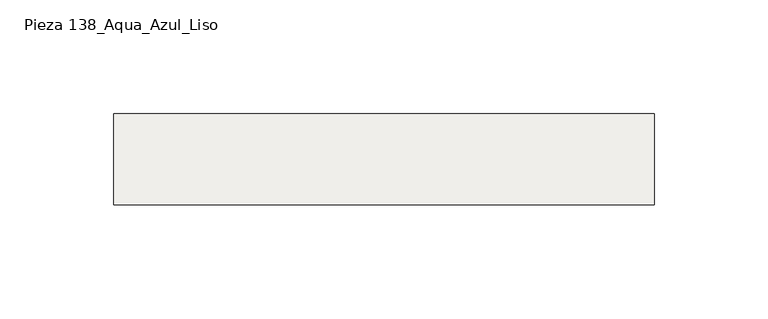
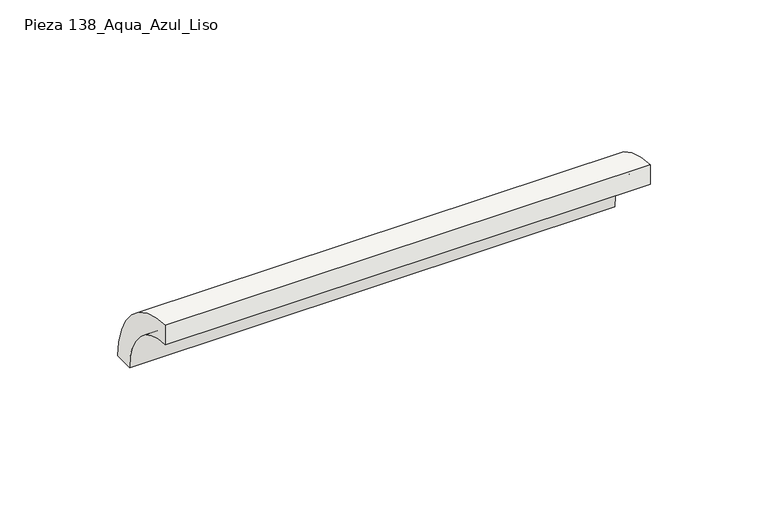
"""IFC4 building model written with IfcOpenShell, lengths in millimetres: slab geometry, ROSA GRES_138 : Pieza 138_Aqua_Azul_Liso."""

from ifc_helpers import new_model, si_unit, point, frame, frame_2d, origin, origin_2d, place, context, project, spatial, polyline, circle_curve, trimmed, segment, composite_curve, outline, extrude, source, transform, mapped, element, save


def pieza_138_aqua_azul_liso_f21874c8(model_context):
    return source(origin(), model_context, "Body", "SweptSolid", [
        extrude(outline(composite_curve([segment(trimmed(circle_curve(origin_2d(), 40.0), [point((0.0, 40.0))], [point((40.0, 0.0))], False, "CARTESIAN"), True, "CONTINUOUS"), segment(polyline([(40.0, 0.0), (30.0265886, 0.0)]), True, "CONTINUOUS"), segment(trimmed(circle_curve(frame_2d((0.0044453, 0.0044453)), 30.0221435), [point((30.0265886, 0.0))], [point((0.0, 30.0265886))], True, "CARTESIAN"), True, "CONTINUOUS"), segment(polyline([(0.0, 30.0265886), (0.0, 40.0)]), True, "CONTINUOUS")], self_intersect=False)), frame((0.0, 0.0, 0.0), z_axis=(1.0, 0.0, 0.0), x_axis=(0.0, 1.0, 0.0)), (0.0, 0.0, 1.0), 237.3223765),
    ])


if __name__ == "__main__":
    model = new_model("IFC4")
    model_context = context("Model", 3, world=origin())
    ifc_project = project(units=[si_unit("LENGTHUNIT", "METRE", prefix="MILLI")], contexts=[model_context])
    site = spatial("IfcSite", under=ifc_project)
    building = spatial("IfcBuilding", under=site)
    placement = place(None, origin())
    pieza_138_aqua_azul_liso_shape = pieza_138_aqua_azul_liso_f21874c8(model_context)
    element("IfcSlab", 1, ObjectType="ROSA GRES_138 : Pieza 138_Aqua_Azul_Liso", at=placement, inside=building, context=model_context, shape_type="MappedRepresentation", body=[
        mapped(pieza_138_aqua_azul_liso_shape, transform((0.0, 0.0, 0.0), x_axis=(1.0, 0.0, 0.0), y_axis=(0.0, 1.0, 0.0), z_axis=(0.0, 0.0, 1.0))),
    ])
    save(model, "model.ifc")
